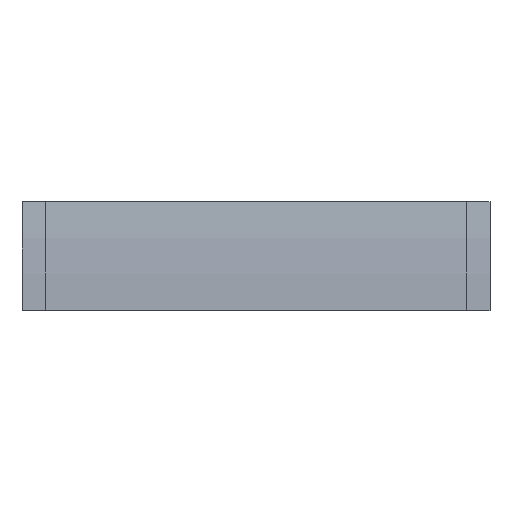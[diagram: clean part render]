
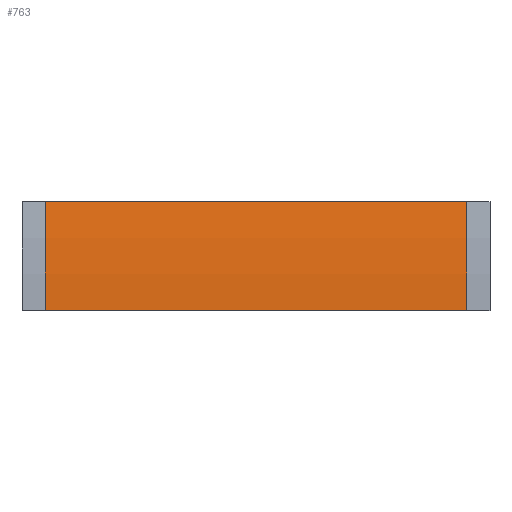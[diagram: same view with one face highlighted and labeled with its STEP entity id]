
A CAD part, front view. The second image highlights one B-rep face of the part: STEP entity #763.
In plain terms, the highlighted cylindrical face has radius 568 mm (diameter 1136 mm), a partial arc.
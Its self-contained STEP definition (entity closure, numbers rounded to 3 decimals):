
#26 = AXIS2_PLACEMENT_3D ( 'NONE', #489, #488, #487 ) ;
#27 = AXIS2_PLACEMENT_3D ( 'NONE', #496, #495, #492 ) ;
#43 = AXIS2_PLACEMENT_3D ( 'NONE', #606, #611, #609 ) ;
#119 = FACE_OUTER_BOUND ( 'NONE', #426, .T. ) ;
#126 = CYLINDRICAL_SURFACE ( 'NONE', #43, 568. ) ;
#169 = CIRCLE ( 'NONE', #26, 568. ) ;
#176 = CIRCLE ( 'NONE', #27, 568. ) ;
#178 = LINE ( 'NONE', #490, #180 ) ;
#179 = LINE ( 'NONE', #483, #182 ) ;
#180 = VECTOR ( 'NONE', #498, 1000. ) ;
#182 = VECTOR ( 'NONE', #482, 1000. ) ;
#317 = VERTEX_POINT ( 'NONE', #449 ) ;
#325 = VERTEX_POINT ( 'NONE', #718 ) ;
#326 = VERTEX_POINT ( 'NONE', #717 ) ;
#329 = VERTEX_POINT ( 'NONE', #714 ) ;
#426 = EDGE_LOOP ( 'NONE', ( #723, #724, #725, #726 ) ) ;
#449 = CARTESIAN_POINT ( 'NONE',  ( -190.5, -68., 0. ) ) ;
#482 = DIRECTION ( 'NONE',  ( 1., 0., 0. ) ) ;
#483 = CARTESIAN_POINT ( 'NONE',  ( -190.5, -59.371, 98.632 ) ) ;
#487 = DIRECTION ( 'NONE',  ( 0., 0., -1. ) ) ;
#488 = DIRECTION ( 'NONE',  ( 1., 0., 0. ) ) ;
#489 = CARTESIAN_POINT ( 'NONE',  ( 190.5, 500., 0. ) ) ;
#490 = CARTESIAN_POINT ( 'NONE',  ( -190.5, -68., 0. ) ) ;
#492 = DIRECTION ( 'NONE',  ( 0., 0., -1. ) ) ;
#495 = DIRECTION ( 'NONE',  ( 1., 0., 0. ) ) ;
#496 = CARTESIAN_POINT ( 'NONE',  ( -190.5, 500., 0. ) ) ;
#498 = DIRECTION ( 'NONE',  ( 1., 0., 0. ) ) ;
#606 = CARTESIAN_POINT ( 'NONE',  ( 0., 500., 0. ) ) ;
#609 = DIRECTION ( 'NONE',  ( 0., 0., -1. ) ) ;
#611 = DIRECTION ( 'NONE',  ( 1., 0., 0. ) ) ;
#714 = CARTESIAN_POINT ( 'NONE',  ( -190.5, -59.371, 98.632 ) ) ;
#717 = CARTESIAN_POINT ( 'NONE',  ( 190.5, -68., 0. ) ) ;
#718 = CARTESIAN_POINT ( 'NONE',  ( 190.5, -59.371, 98.632 ) ) ;
#723 = ORIENTED_EDGE ( 'NONE', *, *, #973, .F. ) ;
#724 = ORIENTED_EDGE ( 'NONE', *, *, #975, .F. ) ;
#725 = ORIENTED_EDGE ( 'NONE', *, *, #972, .T. ) ;
#726 = ORIENTED_EDGE ( 'NONE', *, *, #974, .T. ) ;
#763 = ADVANCED_FACE ( 'NONE', ( #119 ), #126, .T. ) ;
#972 = EDGE_CURVE ( 'NONE', #329, #317, #176, .T. ) ;
#973 = EDGE_CURVE ( 'NONE', #325, #326, #169, .T. ) ;
#974 = EDGE_CURVE ( 'NONE', #317, #326, #178, .T. ) ;
#975 = EDGE_CURVE ( 'NONE', #329, #325, #179, .T. ) ;
